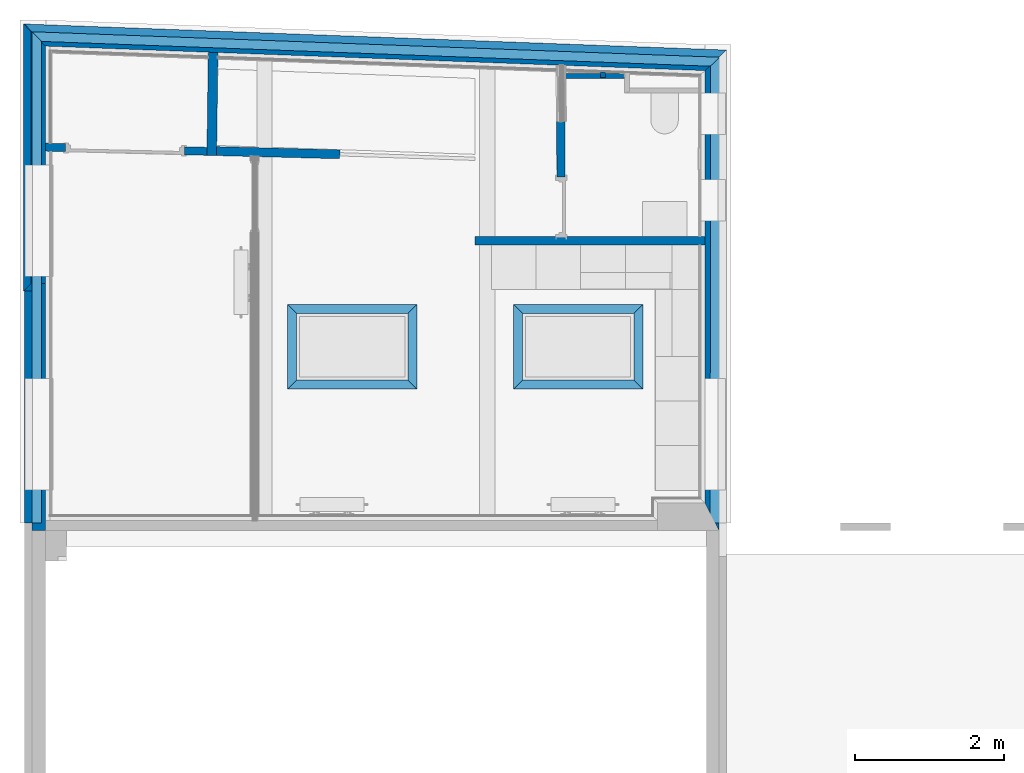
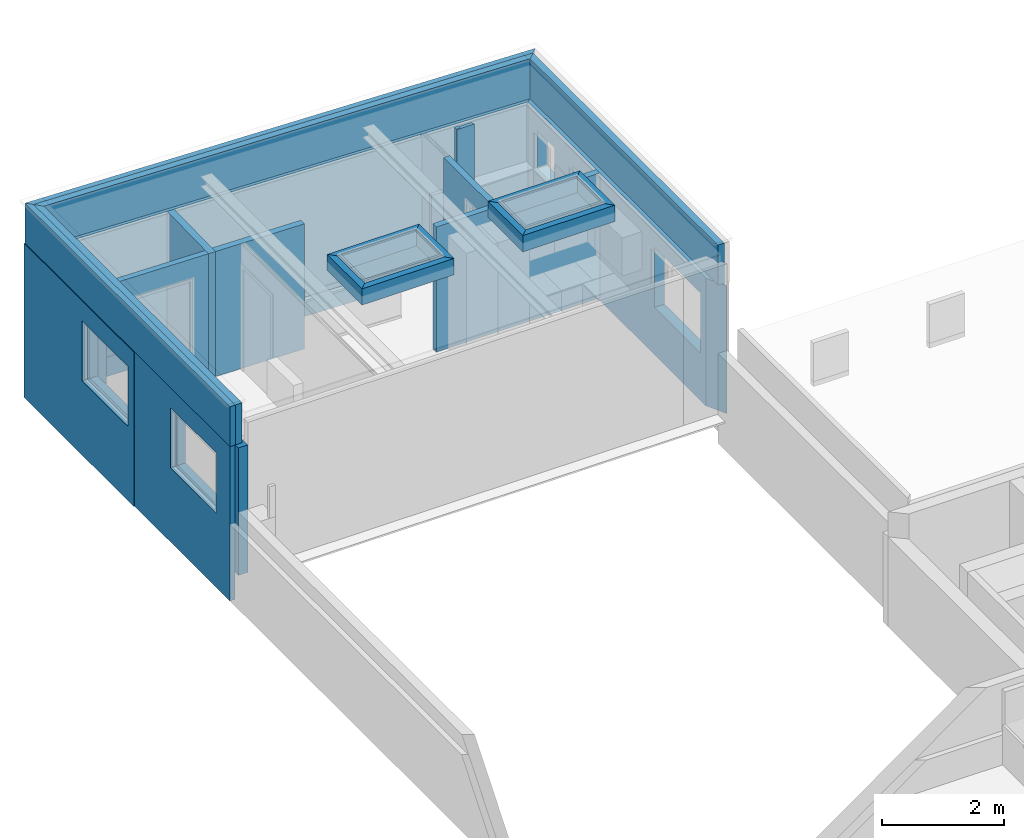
# One storey, part 4 of 22: 29 walls, 9 openings.
"""IFC2X3 building model written with IfcOpenShell, lengths in metres."""

from ifc_helpers import new_model, entity, si_unit, converted_unit, derived_unit, money_unit, direction, frame, frame_2d, origin_with_axes, place, context, subcontext, project, spatial, polyline, rectangle, outline, extrude, faceted_brep, material, layer, layer_set, layer_usage, type_object, element, save


model = new_model("IFC2X3")

# Units and contexts
model_context = context("Model", 3, precision=1e-05, world=origin_with_axes(), true_north=direction((0.0, 1.0)))
body_context = subcontext(model_context, "Body", "Model", "MODEL_VIEW", scale=1.0)
ifc_project = project(units=[si_unit("LENGTHUNIT", "METRE"), si_unit("AREAUNIT", "SQUARE_METRE"), si_unit("VOLUMEUNIT", "CUBIC_METRE"), si_unit("ABSORBEDDOSEUNIT", "GRAY"), si_unit("AMOUNTOFSUBSTANCEUNIT", "MOLE"), si_unit("DOSEEQUIVALENTUNIT", "SIEVERT"), si_unit("ELECTRICCAPACITANCEUNIT", "FARAD"), si_unit("ELECTRICCHARGEUNIT", "COULOMB"), si_unit("ELECTRICCONDUCTANCEUNIT", "SIEMENS"), si_unit("ELECTRICCURRENTUNIT", "AMPERE"), si_unit("ELECTRICRESISTANCEUNIT", "OHM"), si_unit("ELECTRICVOLTAGEUNIT", "VOLT"), si_unit("ENERGYUNIT", "JOULE"), si_unit("FORCEUNIT", "NEWTON"), si_unit("FREQUENCYUNIT", "HERTZ"), si_unit("ILLUMINANCEUNIT", "LUX"), si_unit("INDUCTANCEUNIT", "HENRY"), si_unit("LUMINOUSFLUXUNIT", "LUMEN"), si_unit("LUMINOUSINTENSITYUNIT", "CANDELA"), si_unit("MAGNETICFLUXDENSITYUNIT", "TESLA"), si_unit("MAGNETICFLUXUNIT", "WEBER"), si_unit("MASSUNIT", "GRAM"), converted_unit("PLANEANGLEUNIT", "degree", entity("IfcReal", 0.0174532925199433), si_unit("PLANEANGLEUNIT", "RADIAN"), dimensions=[0, 0, 0, 0, 0, 0, 0]), si_unit("POWERUNIT", "WATT"), si_unit("PRESSUREUNIT", "PASCAL"), si_unit("RADIOACTIVITYUNIT", "BECQUEREL"), si_unit("SOLIDANGLEUNIT", "STERADIAN"), si_unit("THERMODYNAMICTEMPERATUREUNIT", "KELVIN"), si_unit("TIMEUNIT", "SECOND"), derived_unit("ACCELERATIONUNIT", [(si_unit("LENGTHUNIT", "METRE"), 1), (si_unit("TIMEUNIT", "SECOND"), -2)]), derived_unit("ANGULARVELOCITYUNIT", [(converted_unit("PLANEANGLEUNIT", "degree", entity("IfcReal", 0.0174532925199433), si_unit("PLANEANGLEUNIT", "RADIAN"), dimensions=[0, 0, 0, 0, 0, 0, 0]), 1), (si_unit("TIMEUNIT", "SECOND"), -1)]), derived_unit("CURVATUREUNIT", [(converted_unit("PLANEANGLEUNIT", "degree", entity("IfcReal", 0.0174532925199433), si_unit("PLANEANGLEUNIT", "RADIAN"), dimensions=[0, 0, 0, 0, 0, 0, 0]), 1), (si_unit("LENGTHUNIT", "METRE"), -1)]), derived_unit("DYNAMICVISCOSITYUNIT", [(si_unit("PRESSUREUNIT", "PASCAL"), 1), (si_unit("TIMEUNIT", "SECOND"), 1)]), derived_unit("HEATFLUXDENSITYUNIT", [(si_unit("POWERUNIT", "WATT"), 1), (si_unit("LENGTHUNIT", "METRE"), -2)]), derived_unit("HEATINGVALUEUNIT", [(si_unit("ENERGYUNIT", "JOULE"), 1), (si_unit("MASSUNIT", "GRAM"), -1)]), derived_unit("INTEGERCOUNTRATEUNIT", [(si_unit("TIMEUNIT", "SECOND"), -1)]), derived_unit("IONCONCENTRATIONUNIT", [(si_unit("MASSUNIT", "GRAM"), 1), (si_unit("VOLUMEUNIT", "CUBIC_METRE"), -1)]), derived_unit("ISOTHERMALMOISTURECAPACITYUNIT", [(si_unit("VOLUMEUNIT", "CUBIC_METRE"), 1), (si_unit("MASSUNIT", "GRAM"), -1)]), derived_unit("KINEMATICVISCOSITYUNIT", [(si_unit("AREAUNIT", "SQUARE_METRE"), 1), (si_unit("TIMEUNIT", "SECOND"), -1)]), derived_unit("LINEARFORCEUNIT", [(si_unit("FORCEUNIT", "NEWTON"), 1), (si_unit("LENGTHUNIT", "METRE"), -1)]), derived_unit("LINEARMOMENTUNIT", [(si_unit("FORCEUNIT", "NEWTON"), 1), (si_unit("LENGTHUNIT", "METRE"), -1)]), derived_unit("LINEARSTIFFNESSUNIT", [(si_unit("FORCEUNIT", "NEWTON"), 1), (si_unit("LENGTHUNIT", "METRE"), -1)]), derived_unit("LINEARVELOCITYUNIT", [(si_unit("LENGTHUNIT", "METRE"), 1), (si_unit("TIMEUNIT", "SECOND"), -1)]), derived_unit("LUMINOUSINTENSITYDISTRIBUTIONUNIT", [(si_unit("LUMINOUSINTENSITYUNIT", "CANDELA"), 1), (si_unit("LUMINOUSFLUXUNIT", "LUMEN"), -1)]), derived_unit("MASSDENSITYUNIT", [(si_unit("MASSUNIT", "GRAM"), 1), (si_unit("VOLUMEUNIT", "CUBIC_METRE"), -1)]), derived_unit("MASSFLOWRATEUNIT", [(si_unit("MASSUNIT", "GRAM"), 1), (si_unit("TIMEUNIT", "SECOND"), -1)]), derived_unit("MASSPERLENGTHUNIT", [(si_unit("MASSUNIT", "GRAM"), 1), (si_unit("LENGTHUNIT", "METRE"), -1)]), derived_unit("MODULUSOFELASTICITYUNIT", [(si_unit("FORCEUNIT", "NEWTON"), 1), (si_unit("AREAUNIT", "SQUARE_METRE"), -1)]), derived_unit("MODULUSOFLINEARSUBGRADEREACTIONUNIT", [(si_unit("FORCEUNIT", "NEWTON"), 1), (si_unit("LENGTHUNIT", "METRE"), -2)]), derived_unit("MODULUSOFROTATIONALSUBGRADEREACTIONUNIT", [(si_unit("FORCEUNIT", "NEWTON"), 1), (si_unit("LENGTHUNIT", "METRE"), 1)]), derived_unit("MODULUSOFSUBGRADEREACTIONUNIT", [(si_unit("FORCEUNIT", "NEWTON"), 1), (si_unit("VOLUMEUNIT", "CUBIC_METRE"), -1)]), derived_unit("MOISTUREDIFFUSIVITYUNIT", [(si_unit("VOLUMEUNIT", "CUBIC_METRE"), 1), (si_unit("TIMEUNIT", "SECOND"), -1)]), derived_unit("MOLECULARWEIGHTUNIT", [(si_unit("MASSUNIT", "GRAM"), 1), (si_unit("AMOUNTOFSUBSTANCEUNIT", "MOLE"), -1)]), derived_unit("PLANARFORCEUNIT", [(si_unit("FORCEUNIT", "NEWTON"), 1), (si_unit("LENGTHUNIT", "METRE"), -2)]), derived_unit("ROTATIONALFREQUENCYUNIT", [(si_unit("TIMEUNIT", "SECOND"), -1)]), derived_unit("ROTATIONALMASSUNIT", [(si_unit("MASSUNIT", "GRAM"), 1), (si_unit("LENGTHUNIT", "METRE"), 2)]), derived_unit("ROTATIONALSTIFFNESSUNIT", [(si_unit("FORCEUNIT", "NEWTON"), 1), (si_unit("LENGTHUNIT", "METRE"), 1), (converted_unit("PLANEANGLEUNIT", "degree", entity("IfcReal", 0.0174532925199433), si_unit("PLANEANGLEUNIT", "RADIAN"), dimensions=[0, 0, 0, 0, 0, 0, 0]), -1)]), derived_unit("SECTIONAREAINTEGRALUNIT", [(si_unit("LENGTHUNIT", "METRE"), 5)]), derived_unit("SECTIONMODULUSUNIT", [(si_unit("LENGTHUNIT", "METRE"), 3)]), derived_unit("SHEARMODULUSUNIT", [(si_unit("FORCEUNIT", "NEWTON"), 1), (si_unit("AREAUNIT", "SQUARE_METRE"), -1)]), derived_unit("SOUNDPOWERUNIT", [(si_unit("ENERGYUNIT", "JOULE"), 1), (si_unit("TIMEUNIT", "SECOND"), -1)]), derived_unit("SPECIFICHEATCAPACITYUNIT", [(si_unit("FORCEUNIT", "NEWTON"), 1), (si_unit("MASSUNIT", "GRAM"), -1), (si_unit("THERMODYNAMICTEMPERATUREUNIT", "KELVIN"), -1)]), derived_unit("TEMPERATUREGRADIENTUNIT", [(si_unit("THERMODYNAMICTEMPERATUREUNIT", "KELVIN"), 1), (si_unit("LENGTHUNIT", "METRE"), -1)]), derived_unit("THERMALADMITTANCEUNIT", [(si_unit("POWERUNIT", "WATT"), 1), (si_unit("AREAUNIT", "SQUARE_METRE"), -1), (si_unit("THERMODYNAMICTEMPERATUREUNIT", "KELVIN"), -1)]), derived_unit("THERMALCONDUCTANCEUNIT", [(si_unit("POWERUNIT", "WATT"), 1), (si_unit("LENGTHUNIT", "METRE"), -1), (si_unit("THERMODYNAMICTEMPERATUREUNIT", "KELVIN"), -1)]), derived_unit("THERMALEXPANSIONCOEFFICIENTUNIT", [(si_unit("THERMODYNAMICTEMPERATUREUNIT", "KELVIN"), -1)]), derived_unit("THERMALRESISTANCEUNIT", [(si_unit("AREAUNIT", "SQUARE_METRE"), 1), (si_unit("POWERUNIT", "WATT"), -1)]), derived_unit("THERMALTRANSMITTANCEUNIT", [(si_unit("POWERUNIT", "WATT"), 1), (si_unit("AREAUNIT", "SQUARE_METRE"), -1), (si_unit("THERMODYNAMICTEMPERATUREUNIT", "KELVIN"), -1)]), derived_unit("TORQUEUNIT", [(si_unit("FORCEUNIT", "NEWTON"), 1), (si_unit("LENGTHUNIT", "METRE"), 1)]), derived_unit("VAPORPERMEABILITYUNIT", [(si_unit("MASSUNIT", "GRAM"), 1), (si_unit("TIMEUNIT", "SECOND"), -1)]), derived_unit("VOLUMETRICFLOWRATEUNIT", [(si_unit("VOLUMEUNIT", "CUBIC_METRE"), 1), (si_unit("TIMEUNIT", "SECOND"), -1)]), derived_unit("WARPINGCONSTANTUNIT", [(si_unit("LENGTHUNIT", "METRE"), 6)]), derived_unit("WARPINGMOMENTUNIT", [(si_unit("FORCEUNIT", "NEWTON"), 1), (si_unit("LENGTHUNIT", "METRE"), 2)]), money_unit("GBP")], contexts=[model_context])

# Site, building, storey
site_placement = place(None, origin_with_axes())
site = spatial("IfcSite", under=ifc_project, at=site_placement, Name="Site", CompositionType="ELEMENT")
building_placement = place(site_placement, origin_with_axes())
building = spatial("IfcBuilding", under=site, at=building_placement, Name="Building01", CompositionType="ELEMENT")
storey_placement = place(building_placement, frame((0.0, 0.0, 2.6), z_axis=(0.0, 0.0, 1.0), x_axis=(1.0, 0.0, 0.0)))
storey = spatial("IfcBuildingStorey", under=building, at=storey_placement, Name="MF", CompositionType="ELEMENT", Elevation=2.6)

# Wall
ifc_material_1 = material(Name="A_BSUK_WallsExternal_Brick")
ifc_layer_1 = layer(ifc_material_1, 0.1, ventilated=False)
ifc_layer_set_1 = layer_set([ifc_layer_1])
ifc_layer_usage_1 = layer_usage(ifc_layer_set_1, "AXIS2", "POSITIVE", 0.0)
wall_type_1 = type_object("IfcWallType", Name="A-Walls-ExternalBrick", PredefinedType="NOTDEFINED")
wall_1_placement = place(storey_placement, frame((9.443038, 21.262425, 0.0), z_axis=(0.0, 0.0, 1.0), x_axis=(-0.99931258, 0.03707243, 0.0)))
element("IfcWallStandardCase", 1, at=wall_1_placement, inside=storey, type_object=wall_type_1, material=ifc_layer_usage_1, Name="A-Walls-ExternalBrick", ObjectType="A-Walls-ExternalBrick", context=body_context, shape_type="SweptSolid", body=[
    extrude(outline(polyline([(9.359448, 0.1), (0.096359, 0.1), (0.0, 0.0), (9.463227, 0.0), (9.359448, 0.1)])), origin_with_axes(), (0.0, 0.0, 1.0), 3.085),
])

# Wall, opening
wall_2_placement = place(storey_placement, frame((-0.013684, 21.61325, 0.0), z_axis=(0.0, 0.0, 1.0), x_axis=(0.0, -1.0, 0.0)))
wall_2 = element("IfcWallStandardCase", 2, at=wall_2_placement, inside=storey, type_object=wall_type_1, material=ifc_layer_usage_1, Name="A-Walls-ExternalBrick", ObjectType="A-Walls-ExternalBrick", context=body_context, shape_type="SweptSolid", body=[
    extrude(outline(polyline([(3.493021, 0.1), (0.103779, 0.1), (0.0, 0.0), (3.593021, 0.0), (3.493021, 0.1)])), origin_with_axes(), (0.0, 0.0, 1.0), 3.085),
])
opening_1_placement = place(wall_2_placement, frame((1.899002, 0.0, 1.485), z_axis=(0.0, 0.0, 1.0), x_axis=(1.0, 0.0, 0.0)))
element("IfcOpeningElement", 3, at=opening_1_placement, cuts=wall_2, Name="Opening", ObjectType="Opening", context=body_context, shape_type="SweptSolid", body=[
    extrude(rectangle(XDim=1.2, YDim=1.5, at=frame_2d((-0.75, 0.6), x_axis=(0.0, -1.0))), frame((0.0, 0.0, 0.0), z_axis=(0.0, 1.0, 0.0), x_axis=(-1.0, 0.0, 0.0)), (0.0, 0.0, 1.0), 0.1),
])

# Wall
wall_3_placement = place(storey_placement, frame((-0.013684, 18.020229, 0.0), z_axis=(0.0, 0.0, 1.0), x_axis=(1.0, 0.0, 0.0)))
element("IfcWallStandardCase", 4, at=wall_3_placement, inside=storey, type_object=wall_type_1, material=ifc_layer_usage_1, Name="A-Walls-ExternalBrick", ObjectType="A-Walls-ExternalBrick", context=body_context, shape_type="SweptSolid", body=[
    extrude(outline(polyline([(0.114362, 0.1), (0.1, 0.1), (0.0, 0.0), (0.114362, 0.0), (0.114362, 0.1)])), origin_with_axes(), (0.0, 0.0, 1.0), 3.085),
])

# Wall, opening
wall_4_placement = place(storey_placement, frame((0.000679, 18.020229, 0.0), z_axis=(0.0, 0.0, 1.0), x_axis=(0.0, -1.0, 0.0)))
wall_4 = element("IfcWallStandardCase", 5, at=wall_4_placement, inside=storey, type_object=wall_type_1, material=ifc_layer_usage_1, Name="A-Walls-ExternalBrick", ObjectType="A-Walls-ExternalBrick", context=body_context, shape_type="SweptSolid", body=[
    extrude(rectangle(XDim=3.120229, YDim=0.1, at=frame_2d((1.560114, 0.05), x_axis=(-1.0, 0.0))), origin_with_axes(), (0.0, 0.0, 1.0), 3.085),
])
opening_2_placement = place(wall_4_placement, frame((1.177439, 0.0, 1.485), z_axis=(0.0, 0.0, 1.0), x_axis=(1.0, 0.0, 0.0)))
element("IfcOpeningElement", 6, at=opening_2_placement, cuts=wall_4, Name="Opening", ObjectType="Opening", context=body_context, shape_type="SweptSolid", body=[
    extrude(rectangle(XDim=1.2, YDim=1.5, at=frame_2d((-0.75, 0.6), x_axis=(0.0, -1.0))), frame((0.0, 0.0, 0.0), z_axis=(0.0, 1.0, 0.0), x_axis=(-1.0, 0.0, 0.0)), (0.0, 0.0, 1.0), 0.1),
])

# Walls
wall_5_placement = place(storey_placement, frame((0.100627, 14.898004, 3.085), z_axis=(0.0, 0.0, 1.0), x_axis=(0.0, 1.0, 0.0)))
element("IfcWallStandardCase", 7, at=wall_5_placement, inside=storey, type_object=wall_type_1, material=ifc_layer_usage_1, Name="A-Walls-ExternalBrick", ObjectType="A-Walls-ExternalBrick", context=body_context, shape_type="SweptSolid", body=[
    extrude(outline(polyline([(6.714638, 0.1), (0.0, 0.1), (0.0, 0.0), (6.61086, 0.0), (6.714638, 0.1)])), origin_with_axes(), (0.0, 0.0, 1.0), 0.8),
])
wall_6_placement = place(storey_placement, frame((0.100627, 21.508863, 3.085), z_axis=(0.0, 0.0, 1.0), x_axis=(0.99931262, -0.03707143, 0.0)))
element("IfcWallStandardCase", 8, at=wall_6_placement, inside=storey, type_object=wall_type_1, material=ifc_layer_usage_1, Name="A-Walls-ExternalBrick", ObjectType="A-Walls-ExternalBrick", context=body_context, shape_type="SweptSolid", body=[
    extrude(outline(polyline([(9.345366, 0.1), (-0.103778, 0.1), (0.0, 0.0), (9.249004, 0.0), (9.345366, 0.1)])), origin_with_axes(), (0.0, 0.0, 1.0), 0.8),
])
ifc_material_2 = material(Name="A_BSUK_WallsExternal_Block")
ifc_layer_2 = layer(ifc_material_2, 0.187, ventilated=False)
ifc_layer_set_2 = layer_set([ifc_layer_2])
ifc_layer_usage_2 = layer_usage(ifc_layer_set_2, "AXIS2", "POSITIVE", 0.0)
wall_type_2 = type_object("IfcWallType", Name="A-Walls-ExternalBlock", PredefinedType="NOTDEFINED")
wall_7_placement = place(storey_placement, frame((9.343265, 21.166058, 0.535), z_axis=(0.0, 0.0, 1.0), x_axis=(-0.99931258, 0.03707243, 0.0)))
element("IfcWallStandardCase", 9, at=wall_7_placement, inside=storey, type_object=wall_type_2, material=ifc_layer_usage_2, Name="A-Walls-ExternalBlock", ObjectType="A-Walls-ExternalBlock", context=body_context, shape_type="SweptSolid", body=[
    extrude(outline(polyline([(9.061665, 0.187), (0.182193, 0.187), (0.0, 0.0), (9.263736, 0.0), (9.061665, 0.187)])), origin_with_axes(), (0.0, 0.0, 1.0), 2.55),
])

# Wall, opening
ifc_layer_3 = layer(ifc_material_2, 0.195, ventilated=False)
ifc_layer_set_3 = layer_set([ifc_layer_3])
ifc_layer_usage_3 = layer_usage(ifc_layer_set_3, "AXIS2", "POSITIVE", 0.0)
wall_8_placement = place(storey_placement, frame((0.280897, 18.120222, 0.535), z_axis=(0.0, 0.0, 1.0), x_axis=(0.0, 1.0, 0.0)))
wall_8 = element("IfcWallStandardCase", 10, at=wall_8_placement, inside=storey, type_object=wall_type_2, material=ifc_layer_usage_3, Name="A-Walls-ExternalBlock", ObjectType="A-Walls-ExternalBlock", context=body_context, shape_type="SweptSolid", body=[
    extrude(outline(polyline([(3.389265, 0.195), (0.0, 0.195), (0.0, 0.0), (3.194902, 0.0), (3.389265, 0.195)])), origin_with_axes(), (0.0, 0.0, 1.0), 2.55),
])
opening_3_placement = place(wall_8_placement, frame((0.094026, 0.0, 0.95), z_axis=(0.0, 0.0, 1.0), x_axis=(1.0, 0.0, 0.0)))
element("IfcOpeningElement", 11, at=opening_3_placement, cuts=wall_8, Name="Opening", ObjectType="Opening", context=body_context, shape_type="SweptSolid", body=[
    extrude(rectangle(XDim=1.2, YDim=1.5, at=frame_2d((-0.75, 0.6), x_axis=(0.0, -1.0))), frame((0.0, 0.0, 0.0), z_axis=(0.0, 1.0, 0.0), x_axis=(-1.0, 0.0, 0.0)), (0.0, 0.0, 1.0), 0.195),
])

ifc_layer_4 = layer(ifc_material_2, 0.18, ventilated=False)
ifc_layer_set_4 = layer_set([ifc_layer_4])
ifc_layer_usage_4 = layer_usage(ifc_layer_set_4, "AXIS2", "POSITIVE", 0.0)
wall_9_placement = place(storey_placement, frame((0.280772, 14.8, 0.535), z_axis=(0.0, 0.0, 1.0), x_axis=(3.756e-05, 1.0, 0.0)))
wall_9 = element("IfcWallStandardCase", 12, at=wall_9_placement, inside=storey, type_object=wall_type_2, material=ifc_layer_usage_4, Name="A-Walls-ExternalBlock", ObjectType="A-Walls-ExternalBlock", context=body_context, shape_type="SweptSolid", body=[
    extrude(rectangle(XDim=3.320219, YDim=0.18, at=frame_2d((1.66011, 0.09), x_axis=(1.0, 0.0))), origin_with_axes(), (0.0, 0.0, 1.0), 2.55),
])
opening_4_placement = place(wall_9_placement, frame((0.542783, 0.0, 0.95), z_axis=(0.0, 0.0, 1.0), x_axis=(1.0, 0.0, 0.0)))
element("IfcOpeningElement", 13, at=opening_4_placement, cuts=wall_9, Name="Opening", ObjectType="Opening", context=body_context, shape_type="Brep", body=[
    faceted_brep([(7e-06, 0.0, 0.0), (1.500007, 0.0, 0.0), (1.500007, 0.0, 1.2), (7e-06, 0.0, 1.2), (1.5, 0.18, 0.0), (0.0, 0.18, 0.0), (1.5, 0.18, 1.2), (0.0, 0.18, 1.2)], [[[0, 1, 2, 3]], [[4, 1, 0, 5]], [[6, 2, 1, 4]], [[7, 3, 2, 6]], [[5, 0, 3, 7]], [[4, 5, 7, 6]]]),
])

# Wall, openings
ifc_layer_5 = layer(ifc_material_2, 0.189, ventilated=False)
ifc_layer_set_5 = layer_set([ifc_layer_5])
ifc_layer_usage_5 = layer_usage(ifc_layer_set_5, "AXIS2", "POSITIVE", 0.0)
wall_10_placement = place(storey_placement, frame((9.343265, 14.8, 0.535), z_axis=(0.0, 0.0, 1.0), x_axis=(0.0, 1.0, 0.0)))
wall_10 = element("IfcWallStandardCase", 14, at=wall_10_placement, inside=storey, type_object=wall_type_2, material=ifc_layer_usage_5, Name="A-Walls-ExternalBlock", ObjectType="A-Walls-ExternalBlock", context=body_context, shape_type="SweptSolid", body=[
    extrude(outline(polyline([(6.185941, 0.189), (0.368, 0.189), (0.0, 0.0), (6.366058, 0.0), (6.185941, 0.189)])), origin_with_axes(), (0.0, 0.0, 1.0), 2.55),
])
opening_5_placement = place(wall_10_placement, frame((0.54279, 0.0, 0.95), z_axis=(0.0, 0.0, 1.0), x_axis=(1.0, 0.0, 0.0)))
element("IfcOpeningElement", 15, at=opening_5_placement, cuts=wall_10, Name="Opening", ObjectType="Opening", context=body_context, shape_type="SweptSolid", body=[
    extrude(rectangle(XDim=1.2, YDim=1.5, at=frame_2d((-0.75, 0.6), x_axis=(0.0, -1.0))), frame((0.0, 0.0, 0.0), z_axis=(0.0, 1.0, 0.0), x_axis=(-1.0, 0.0, 0.0)), (0.0, 0.0, 1.0), 0.189),
])
opening_6_placement = place(wall_10_placement, frame((4.162294, 0.0, 1.4), z_axis=(0.0, 0.0, 1.0), x_axis=(1.0, 0.0, 0.0)))
element("IfcOpeningElement", 16, at=opening_6_placement, cuts=wall_10, Name="Opening", ObjectType="Opening", context=body_context, shape_type="SweptSolid", body=[
    extrude(rectangle(XDim=0.75, YDim=0.56, at=frame_2d((-0.28, 0.375), x_axis=(0.0, -1.0))), frame((0.0, 0.0, 0.0), z_axis=(0.0, 1.0, 0.0), x_axis=(-1.0, 0.0, 0.0)), (0.0, 0.0, 1.0), 0.189),
])
opening_7_placement = place(wall_10_placement, frame((5.323903, 0.0, 1.4), z_axis=(0.0, 0.0, 1.0), x_axis=(1.0, 0.0, 0.0)))
element("IfcOpeningElement", 17, at=opening_7_placement, cuts=wall_10, Name="Opening", ObjectType="Opening", context=body_context, shape_type="SweptSolid", body=[
    extrude(rectangle(XDim=0.75, YDim=0.56, at=frame_2d((-0.28, 0.375), x_axis=(0.0, -1.0))), frame((0.0, 0.0, 0.0), z_axis=(0.0, 1.0, 0.0), x_axis=(-1.0, 0.0, 0.0)), (0.0, 0.0, 1.0), 0.189),
])

# Walls
ifc_layer_6 = layer(ifc_material_2, 0.125, ventilated=False)
ifc_layer_set_6 = layer_set([ifc_layer_6])
ifc_layer_usage_6 = layer_usage(ifc_layer_set_6, "AXIS2", "POSITIVE", 0.0)
wall_11_placement = place(storey_placement, frame((0.225627, 14.898004, 3.085), z_axis=(0.0, 0.0, 1.0), x_axis=(0.0, 1.0, 0.0)))
element("IfcWallStandardCase", 18, at=wall_11_placement, inside=storey, type_object=wall_type_2, material=ifc_layer_usage_6, Name="A-Walls-ExternalBlock", ObjectType="A-Walls-ExternalBlock", context=body_context, shape_type="SweptSolid", body=[
    extrude(outline(polyline([(6.61086, 0.125), (0.0, 0.125), (0.0, 0.0), (6.481137, 0.0), (6.61086, 0.125)])), origin_with_axes(), (0.0, 0.0, 1.0), 0.8),
])
wall_12_placement = place(storey_placement, frame((0.225627, 21.37914, 3.085), z_axis=(0.0, 0.0, 1.0), x_axis=(0.99931262, -0.03707143, 0.0)))
element("IfcWallStandardCase", 19, at=wall_12_placement, inside=storey, type_object=wall_type_2, material=ifc_layer_usage_6, Name="A-Walls-ExternalBlock", ObjectType="A-Walls-ExternalBlock", context=body_context, shape_type="SweptSolid", body=[
    extrude(outline(polyline([(9.126502, 0.125), (-0.129723, 0.125), (0.0, 0.0), (9.006049, 0.0), (9.126502, 0.125)])), origin_with_axes(), (0.0, 0.0, 1.0), 0.8),
])
wall_13_placement = place(storey_placement, frame((9.225486, 21.045273, 3.085), z_axis=(0.0, 0.0, 1.0), x_axis=(-3.756e-05, -1.0, 0.0)))
element("IfcWallStandardCase", 20, at=wall_13_placement, inside=storey, type_object=wall_type_2, material=ifc_layer_usage_6, Name="A-Walls-ExternalBlock", ObjectType="A-Walls-ExternalBlock", context=body_context, shape_type="SweptSolid", body=[
    extrude(outline(polyline([(-0.120453, 0.125), (0.0, 0.0), (6.147608, 0.0), (6.147608, 0.125), (-0.120453, 0.125)])), origin_with_axes(), (0.0, 0.0, 1.0), 0.8),
])
ifc_layer_7 = layer(ifc_material_2, 0.12, ventilated=False)
ifc_layer_set_7 = layer_set([ifc_layer_7])
ifc_layer_usage_7 = layer_usage(ifc_layer_set_7, "AXIS2", "POSITIVE", 0.0)
wall_14_placement = place(storey_placement, frame((3.657414, 16.82, 3.585), z_axis=(0.0, 0.0, 1.0), x_axis=(0.0, 1.0, 0.0)))
element("IfcWallStandardCase", 21, at=wall_14_placement, inside=storey, type_object=wall_type_2, material=ifc_layer_usage_7, Name="A-Walls-ExternalBlock", ObjectType="A-Walls-ExternalBlock", context=body_context, shape_type="SweptSolid", body=[
    extrude(outline(polyline([(1.02, 0.12), (-0.12, 0.12), (0.0, 0.0), (0.9, 0.0), (1.02, 0.12)])), origin_with_axes(), (0.0, 0.0, 1.0), 0.325),
])
wall_15_placement = place(storey_placement, frame((3.657414, 17.72, 3.585), z_axis=(0.0, 0.0, 1.0), x_axis=(1.0, 0.0, 0.0)))
element("IfcWallStandardCase", 22, at=wall_15_placement, inside=storey, type_object=wall_type_2, material=ifc_layer_usage_7, Name="A-Walls-ExternalBlock", ObjectType="A-Walls-ExternalBlock", context=body_context, shape_type="SweptSolid", body=[
    extrude(outline(polyline([(1.62, 0.12), (-0.12, 0.12), (0.0, 0.0), (1.5, 0.0), (1.62, 0.12)])), origin_with_axes(), (0.0, 0.0, 1.0), 0.325),
])
wall_16_placement = place(storey_placement, frame((5.157414, 17.72, 3.585), z_axis=(0.0, 0.0, 1.0), x_axis=(0.0, -1.0, 0.0)))
element("IfcWallStandardCase", 23, at=wall_16_placement, inside=storey, type_object=wall_type_2, material=ifc_layer_usage_7, Name="A-Walls-ExternalBlock", ObjectType="A-Walls-ExternalBlock", context=body_context, shape_type="SweptSolid", body=[
    extrude(outline(polyline([(1.02, 0.12), (-0.12, 0.12), (0.0, 0.0), (0.9, 0.0), (1.02, 0.12)])), origin_with_axes(), (0.0, 0.0, 1.0), 0.325),
])
wall_17_placement = place(storey_placement, frame((5.157414, 16.82, 3.585), z_axis=(0.0, 0.0, 1.0), x_axis=(-1.0, 0.0, 0.0)))
element("IfcWallStandardCase", 24, at=wall_17_placement, inside=storey, type_object=wall_type_2, material=ifc_layer_usage_7, Name="A-Walls-ExternalBlock", ObjectType="A-Walls-ExternalBlock", context=body_context, shape_type="SweptSolid", body=[
    extrude(outline(polyline([(1.62, 0.12), (-0.12, 0.12), (0.0, 0.0), (1.5, 0.0), (1.62, 0.12)])), origin_with_axes(), (0.0, 0.0, 1.0), 0.325),
])
wall_18_placement = place(storey_placement, frame((8.197414, 17.72, 3.585), z_axis=(0.0, 0.0, 1.0), x_axis=(0.0, -1.0, 0.0)))
element("IfcWallStandardCase", 25, at=wall_18_placement, inside=storey, type_object=wall_type_2, material=ifc_layer_usage_7, Name="A-Walls-ExternalBlock", ObjectType="A-Walls-ExternalBlock", context=body_context, shape_type="SweptSolid", body=[
    extrude(outline(polyline([(1.02, 0.12), (-0.12, 0.12), (0.0, 0.0), (0.9, 0.0), (1.02, 0.12)])), origin_with_axes(), (0.0, 0.0, 1.0), 0.325),
])
wall_19_placement = place(storey_placement, frame((8.197414, 16.82, 3.585), z_axis=(0.0, 0.0, 1.0), x_axis=(-1.0, 0.0, 0.0)))
element("IfcWallStandardCase", 26, at=wall_19_placement, inside=storey, type_object=wall_type_2, material=ifc_layer_usage_7, Name="A-Walls-ExternalBlock", ObjectType="A-Walls-ExternalBlock", context=body_context, shape_type="SweptSolid", body=[
    extrude(outline(polyline([(1.62, 0.12), (-0.12, 0.12), (0.0, 0.0), (1.5, 0.0), (1.62, 0.12)])), origin_with_axes(), (0.0, 0.0, 1.0), 0.325),
])
wall_20_placement = place(storey_placement, frame((6.697414, 16.82, 3.585), z_axis=(0.0, 0.0, 1.0), x_axis=(0.0, 1.0, 0.0)))
element("IfcWallStandardCase", 27, at=wall_20_placement, inside=storey, type_object=wall_type_2, material=ifc_layer_usage_7, Name="A-Walls-ExternalBlock", ObjectType="A-Walls-ExternalBlock", context=body_context, shape_type="SweptSolid", body=[
    extrude(outline(polyline([(1.02, 0.12), (-0.12, 0.12), (0.0, 0.0), (0.9, 0.0), (1.02, 0.12)])), origin_with_axes(), (0.0, 0.0, 1.0), 0.325),
])
wall_21_placement = place(storey_placement, frame((6.697414, 17.72, 3.585), z_axis=(0.0, 0.0, 1.0), x_axis=(1.0, 0.0, 0.0)))
element("IfcWallStandardCase", 28, at=wall_21_placement, inside=storey, type_object=wall_type_2, material=ifc_layer_usage_7, Name="A-Walls-ExternalBlock", ObjectType="A-Walls-ExternalBlock", context=body_context, shape_type="SweptSolid", body=[
    extrude(outline(polyline([(1.62, 0.12), (-0.12, 0.12), (0.0, 0.0), (1.5, 0.0), (1.62, 0.12)])), origin_with_axes(), (0.0, 0.0, 1.0), 0.325),
])
ifc_material_3 = material(Name="A_BSUK_WallsInternal")
ifc_layer_8 = layer(ifc_material_3, 0.13, ventilated=False)
ifc_layer_set_8 = layer_set([ifc_layer_8])
ifc_layer_usage_8 = layer_usage(ifc_layer_set_8, "AXIS2", "POSITIVE", 0.0)
wall_type_3 = type_object("IfcWallType", Name="A-Walls-Internal", PredefinedType="NOTDEFINED")
wall_22_placement = place(storey_placement, frame((2.47137, 21.233862, 0.585), z_axis=(0.0, 0.0, 1.0), x_axis=(-0.01343765, -0.99990971, 0.0)))
element("IfcWallStandardCase", 29, at=wall_22_placement, inside=storey, type_object=wall_type_3, material=ifc_layer_usage_8, Name="A-Walls-Internal", ObjectType="A-Walls-Internal", context=body_context, shape_type="SweptSolid", body=[
    extrude(outline(polyline([(1.389679, 0.13), (0.003074, 0.13), (0.0, 0.0), (1.388094, 0.0), (1.389679, 0.13)])), origin_with_axes(), (0.0, 0.0, 1.0), 2.5),
])

# Wall, opening
ifc_layer_9 = layer(ifc_material_3, 0.108, ventilated=False)
ifc_layer_set_9 = layer_set([ifc_layer_9])
ifc_layer_usage_9 = layer_usage(ifc_layer_set_9, "AXIS2", "POSITIVE", 0.0)
wall_23_placement = place(storey_placement, frame((0.280897, 19.90157, 0.585), z_axis=(0.0, 0.0, 1.0), x_axis=(0.99967157, -0.02562735, 0.0)))
wall_23 = element("IfcWallStandardCase", 30, at=wall_23_placement, inside=storey, type_object=wall_type_3, material=ifc_layer_usage_9, Name="A-Walls-Internal", ObjectType="A-Walls-Internal", context=body_context, shape_type="SweptSolid", body=[
    extrude(outline(polyline([(2.171217, 0.108), (-0.002769, 0.108), (0.0, 0.0), (2.172534, 0.0), (2.171217, 0.108)])), origin_with_axes(), (0.0, 0.0, 1.0), 2.5),
])
opening_8_placement = place(wall_23_placement, frame((0.266957, 0.0, 0.0), z_axis=(0.0, 0.0, 1.0), x_axis=(1.0, 0.0, 0.0)))
element("IfcOpeningElement", 31, at=opening_8_placement, cuts=wall_23, Name="Opening", ObjectType="Opening", context=body_context, shape_type="Brep", body=[
    faceted_brep([(1.604261, 0.0, 0.0), (1.604261, 0.0, 2.1), (0.000256, 0.0, 2.1), (0.000256, 0.0, 0.0), (1.604005, 0.108, 2.1), (1.604005, 0.108, 0.0), (0.0, 0.108, 0.0), (0.0, 0.108, 2.1)], [[[0, 1, 2, 3]], [[4, 5, 6, 7]], [[5, 0, 3, 6]], [[4, 1, 0, 5]], [[7, 2, 1, 4]], [[6, 3, 2, 7]]]),
])

# Wall
ifc_layer_10 = layer(ifc_material_3, 0.12, ventilated=False)
ifc_layer_set_10 = layer_set([ifc_layer_10])
ifc_layer_usage_10 = layer_usage(ifc_layer_set_10, "AXIS2", "POSITIVE", 0.0)
wall_24_placement = place(storey_placement, frame((2.582684, 19.842562, 0.585), z_axis=(0.0, 0.0, 1.0), x_axis=(0.99967157, -0.02562735, 0.0)))
element("IfcWallStandardCase", 32, at=wall_24_placement, inside=storey, type_object=wall_type_3, material=ifc_layer_usage_10, Name="A-Walls-Internal", ObjectType="A-Walls-Internal", context=body_context, shape_type="SweptSolid", body=[
    extrude(outline(polyline([(-0.001463, 0.12), (0.0, 0.0), (1.657189, 0.0), (1.657189, 0.12), (-0.001463, 0.12)])), origin_with_axes(), (0.0, 0.0, 1.0), 2.5),
])

# Wall, opening
ifc_layer_11 = layer(ifc_material_3, 0.113, ventilated=False)
ifc_layer_set_11 = layer_set([ifc_layer_11])
ifc_layer_usage_11 = layer_usage(ifc_layer_set_11, "AXIS2", "POSITIVE", 0.0)
wall_25_placement = place(storey_placement, frame((7.275966, 18.752607, 0.585), z_axis=(0.0, 0.0, 1.0), x_axis=(-0.00272299, 0.99999629, 0.0)))
wall_25 = element("IfcWallStandardCase", 33, at=wall_25_placement, inside=storey, type_object=wall_type_3, material=ifc_layer_usage_11, Name="A-Walls-Internal", ObjectType="A-Walls-Internal", context=body_context, shape_type="SweptSolid", body=[
    extrude(outline(polyline([(0.000308, 0.113), (0.0, 0.0), (1.549119, 0.0), (1.549119, 0.113), (0.000308, 0.113)])), origin_with_axes(), (0.0, 0.0, 1.0), 2.5),
])
opening_9_placement = place(wall_25_placement, origin_with_axes())
element("IfcOpeningElement", 34, at=opening_9_placement, cuts=wall_25, Name="Opening", ObjectType="Opening", context=body_context, shape_type="Brep", body=[
    faceted_brep([(0.799813, 0.113, 2.1), (0.799813, 0.113, 0.0), (0.000308, 0.113, 0.0), (0.000308, 0.113, 2.1), (0.0, 0.0, 2.1), (0.0, 0.0, 0.0), (0.799506, 0.0, 0.0), (0.799506, 0.0, 2.1)], [[[0, 1, 2, 3]], [[4, 3, 2, 5]], [[6, 7, 4, 5]], [[1, 6, 5, 2]], [[0, 7, 6, 1]], [[4, 7, 0, 3]]]),
])

# Walls
wall_26_placement = place(storey_placement, frame((6.06243, 18.639607, 0.585), z_axis=(0.0, 0.0, 1.0), x_axis=(1.0, 0.0, 0.0)))
element("IfcWallStandardCase", 35, at=wall_26_placement, inside=storey, type_object=wall_type_3, material=ifc_layer_usage_11, Name="A-Walls-Internal", ObjectType="A-Walls-Internal", context=body_context, shape_type="SweptSolid", body=[
    extrude(rectangle(XDim=3.091835, YDim=0.113, at=frame_2d((1.545917, 0.0565), x_axis=(-1.0, 0.0))), origin_with_axes(), (0.0, 0.0, 1.0), 2.5),
])
ifc_material_4 = material(Name="A_BSUK_OpeningsClearance")
ifc_layer_12 = layer(ifc_material_4, 0.05, ventilated=False)
ifc_material_5 = material(Name="A_BSUK_Walls_Timber")
ifc_layer_13 = layer(ifc_material_5, 0.015, ventilated=False)
ifc_layer_set_12 = layer_set([ifc_layer_12, ifc_layer_13])
ifc_layer_usage_12 = layer_usage(ifc_layer_set_12, "AXIS2", "POSITIVE", 0.0)
wall_type_4 = type_object("IfcWallType", Name="SHE_A-Walls_Type05c_PreWallShell_65mm", PredefinedType="NOTDEFINED")
wall_27_placement = place(storey_placement, frame((7.813799, 20.89411, 0.585), z_axis=(0.0, 0.0, 1.0), x_axis=(0.0, 1.0, 0.0)))
element("IfcWallStandardCase", 36, at=wall_27_placement, inside=storey, type_object=wall_type_4, material=ifc_layer_usage_12, Name="5C", ObjectType="SHE_A-Walls_Type05c_PreWallShell_65mm", context=body_context, shape_type="SweptSolid", body=[
    extrude(outline(polyline([(0.071933, 0.065), (0.0, 0.065), (0.0, 0.0), (0.069522, 0.0), (0.071933, 0.065)])), origin_with_axes(), (0.0, 0.0, 1.0), 2.5),
])
wall_28_placement = place(storey_placement, frame((8.059417, 20.94411, 0.585), z_axis=(0.0, 0.0, 1.0), x_axis=(-1.0, 0.0, 0.0)))
element("IfcWallStandardCase", 37, at=wall_28_placement, inside=storey, type_object=wall_type_4, material=ifc_layer_usage_12, Name="5C", ObjectType="SHE_A-Walls_Type05c_PreWallShell_65mm", context=body_context, shape_type="SweptSolid", body=[
    extrude(outline(polyline([(0.245618, 0.05), (0.310618, 0.05), (0.310618, 0.065), (-0.015, 0.065), (-0.015, 0.05), (0.0, 0.05), (0.0, 0.0), (0.245618, 0.0), (0.245618, 0.05)])), origin_with_axes(), (0.0, 0.0, 1.0), 2.5),
])
wall_29_placement = place(storey_placement, frame((7.763799, 20.94411, 0.585), z_axis=(0.0, 0.0, 1.0), x_axis=(-1.0, 0.0, 0.0)))
element("IfcWallStandardCase", 38, at=wall_29_placement, inside=storey, type_object=wall_type_4, material=ifc_layer_usage_12, Name="5C", ObjectType="SHE_A-Walls_Type05c_PreWallShell_65mm", context=body_context, shape_type="SweptSolid", body=[
    extrude(outline(polyline([(0.496537, 0.065), (0.015, 0.065), (0.015, 0.05), (0.0, 0.05), (0.0, 0.0), (0.497251, 0.0), (0.496537, 0.065)])), origin_with_axes(), (0.0, 0.0, 1.0), 1.35),
])

save(model, "model.ifc")
